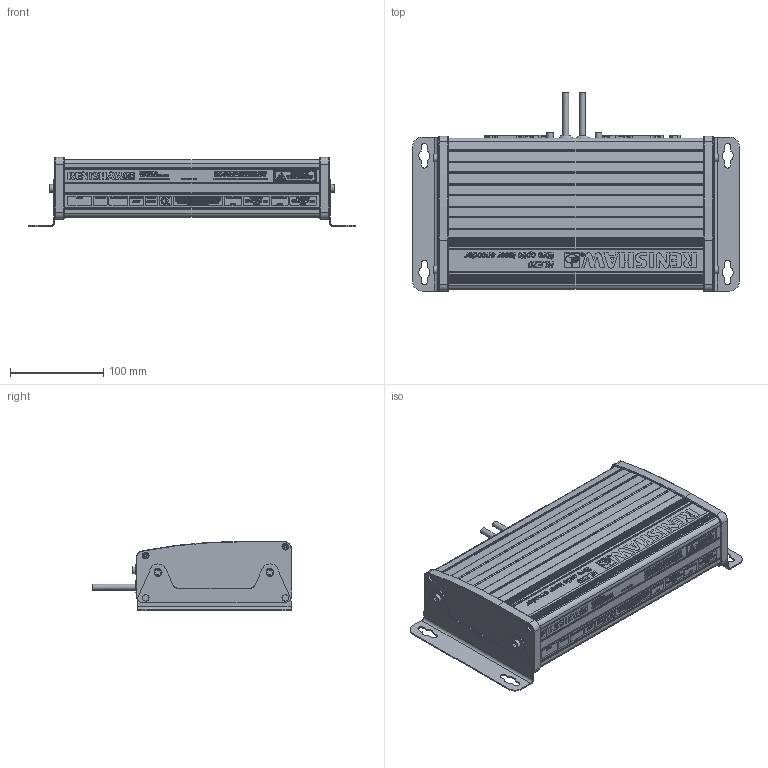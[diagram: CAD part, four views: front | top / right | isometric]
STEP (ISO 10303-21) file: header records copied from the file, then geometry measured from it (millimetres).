
FILE_DESCRIPTION( ( 'Unknown' ), '1' );
FILE_NAME( 'C:/RLU_H.stp', 'Unknown', ( 'Unknown' ), ( 'Unknown' ), 'XStep 1.0', 'Unknown', ' ' );
FILE_SCHEMA( ( 'CONFIG_CONTROL_DESIGN' ) );
Length unit declared in the file: millimetre
Products named in the file (1): 1
Bounding box: 350 x 213.34 x 74.15 mm (x, y, z)
Volume: 2769435.2 mm3; surface area: 208290.5 mm2
Topology: 1 solids, 14 shells, 10000 faces, 26659 edges, 17731 vertices
Faces by surface type: plane 6441, extrusion 2708, cylinder 649, cone 164, torus 21, sphere 15, bspline 2
Full cylindrical faces by diameter (mm): 0.8 x30, 1 x60, 1.7 x1, 1.9 x1, 2.1 x1, 2.35 x8, 2.5 x4, 3.4 x2, 3.8 x2, 4.5 x6, 5 x4, 5.5 x12, 5.9 x2, 6.35 x2, 6.8 x7, 7 x8, 7.1 x2, 8 x2, 8.5 x11, 15 x2, 18 x1, 19.5 x1
Entity records: 317061 total; most frequent: CARTESIAN_POINT 78333, ORIENTED_EDGE 52628, DIRECTION 39677, EDGE_CURVE 26314, VECTOR 21775, LINE 19067, VERTEX_POINT 17647, EDGE_LOOP 11288
